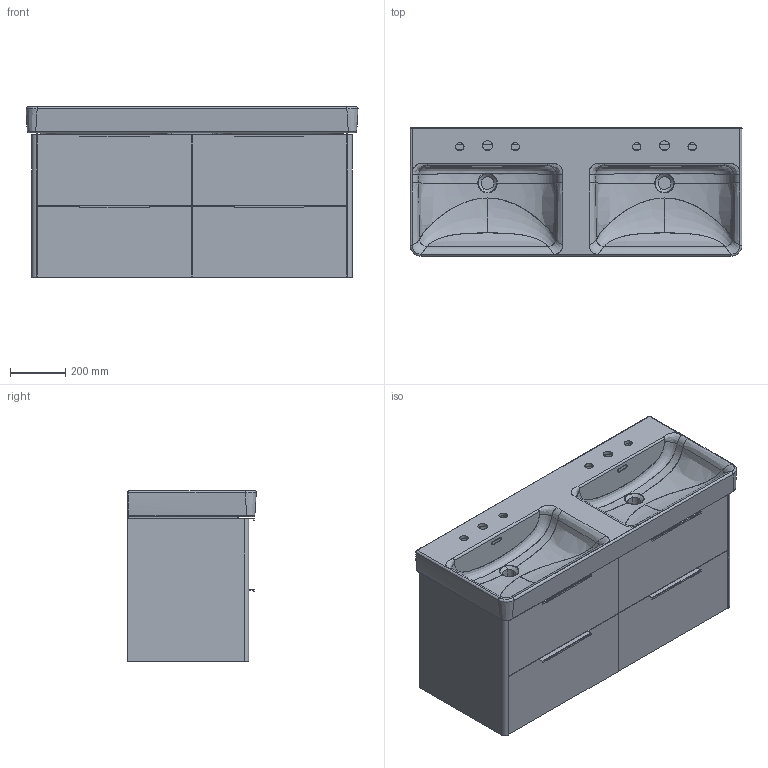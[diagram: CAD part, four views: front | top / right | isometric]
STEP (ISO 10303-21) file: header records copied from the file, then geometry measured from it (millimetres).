
FILE_DESCRIPTION(/* description */ (''),/* implementation_level */ '2;1');
FILE_NAME(/* name */ 'C:\Users\User33\Desktop\Base\3D01_402494.stp',/* time_stamp */ '2018-05-05T14:59:33+02:00',/* author */ ('User33'),/* organization */ (''),/* preprocessor_version */ 'ST-DEVELOPER v16.13',/* originating_system */ 'Autodesk Inventor 2018',/* authorisation */ '');
FILE_SCHEMA (('AUTOMOTIVE_DESIGN { 1 0 10303 214 3 1 1 }'));
Products named in the file (44): Scheletro monoblocco curvo 1159 doppio; Scheletro monoblocco curvo 1159 doppio_1_1; Scheletro monoblocco curvo 1159 doppio_6; Scheletro monoblocco curvo 1159 doppio_7; Scheletro monoblocco curvo 1159 doppio_8; Scheletro monoblocco curvo 1159 doppio_9; Scheletro monoblocco curvo 1159 doppio_11; Scheletro monoblocco curvo 1159 doppio_12; Scheletro monoblocco curvo 1159 doppio_14; Scheletro monoblocco curvo 1159 doppio_15; Scheletro monoblocco curvo 1159 doppio_16; Scheletro monoblocco curvo 1159 doppio_17; Scheletro monoblocco curvo 1159 doppio_20; Scheletro monoblocco curvo 1159 doppio_21; Scheletro monoblocco curvo 1159 doppio_24; Scheletro monoblocco curvo 1159 doppio_25; Scheletro monoblocco curvo 1159 doppio_26; Scheletro monoblocco curvo 1159 doppio_27; Scheletro monoblocco curvo 1159 doppio_29; Scheletro monoblocco curvo 1159 doppio_30; Scheletro monoblocco curvo 1159 doppio_32; Scheletro monoblocco curvo 1159 doppio_33; Scheletro monoblocco curvo 1159 doppio_34; Scheletro monoblocco curvo 1159 doppio_35; Scheletro monoblocco curvo 1159 doppio_36; Scheletro monoblocco curvo 1159 doppio_37; Scheletro monoblocco curvo 1159 doppio_39; Scheletro monoblocco curvo 1159 doppio_40; Scheletro monoblocco curvo 1159 doppio_44; Scheletro monoblocco curvo 1159 doppio_46; Scheletro monoblocco curvo 1159 doppio_47; Scheletro monoblocco curvo 1159 doppio_49; Scheletro monoblocco curvo 1159 doppio_50; Scheletro monoblocco curvo 1159 doppio_54; Scheletro monoblocco curvo 1159 doppio_55; Scheletro monoblocco curvo 1159 doppio_57; Scheletro monoblocco curvo 1159 doppio_58; Scheletro monoblocco curvo 1159 doppio_60; Scheletro monoblocco curvo 1159 doppio_61; Scheletro monoblocco curvo 1159 doppio_62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
Assembly tree (43 placements, depth 2):
  Scheletro monoblocco curvo 1159 doppio
    Scheletro monoblocco curvo 1159 doppio_1_1
    Scheletro monoblocco curvo 1159 doppio_6
    Scheletro monoblocco curvo 1159 doppio_7
    Scheletro monoblocco curvo 1159 doppio_8
    Scheletro monoblocco curvo 1159 doppio_9
    Scheletro monoblocco curvo 1159 doppio_11
    Scheletro monoblocco curvo 1159 doppio_12
    Scheletro monoblocco curvo 1159 doppio_14
    Scheletro monoblocco curvo 1159 doppio_15
    Scheletro monoblocco curvo 1159 doppio_16
    Scheletro monoblocco curvo 1159 doppio_17
    Scheletro monoblocco curvo 1159 doppio_20
    Scheletro monoblocco curvo 1159 doppio_21
    Scheletro monoblocco curvo 1159 doppio_24
    Scheletro monoblocco curvo 1159 doppio_25
    Scheletro monoblocco curvo 1159 doppio_26
    Scheletro monoblocco curvo 1159 doppio_27
    Scheletro monoblocco curvo 1159 doppio_29
    Scheletro monoblocco curvo 1159 doppio_30
    Scheletro monoblocco curvo 1159 doppio_32
    Scheletro monoblocco curvo 1159 doppio_33
    Scheletro monoblocco curvo 1159 doppio_34
    Scheletro monoblocco curvo 1159 doppio_35
    Scheletro monoblocco curvo 1159 doppio_36
    Scheletro monoblocco curvo 1159 doppio_37
    Scheletro monoblocco curvo 1159 doppio_39
    Scheletro monoblocco curvo 1159 doppio_40
    Scheletro monoblocco curvo 1159 doppio_44
    Scheletro monoblocco curvo 1159 doppio_46
    Scheletro monoblocco curvo 1159 doppio_47
    Scheletro monoblocco curvo 1159 doppio_49
    Scheletro monoblocco curvo 1159 doppio_50
    Scheletro monoblocco curvo 1159 doppio_54
    Scheletro monoblocco curvo 1159 doppio_55
    Scheletro monoblocco curvo 1159 doppio_57
    Scheletro monoblocco curvo 1159 doppio_58
    Scheletro monoblocco curvo 1159 doppio_60
    Scheletro monoblocco curvo 1159 doppio_61
    Scheletro monoblocco curvo 1159 doppio_62
    Maniglia
    Maniglia 2
    Maniglia 3
    Maniglia 4
Bounding box: 1200.76 x 465.28 x 617 mm (x, y, z)
Volume: 51922147.5 mm3; surface area: 8848361.2 mm2
Topology: 44 solids, 766 shells, 2144 faces, 7200 edges, 5930 vertices
Faces by surface type: plane 1242, cylinder 441, bspline 375, torus 39, sphere 31, cone 16
Full cylindrical faces by diameter (mm): 4 x36, 4.1 x9, 5 x8, 5.1 x9, 6 x27
Entity records: 260868 total; most frequent: CARTESIAN_POINT 197386, DIRECTION 11396, ORIENTED_EDGE 10804, EDGE_CURVE 7104, VERTEX_POINT 5930, LINE 3970, VECTOR 3970, AXIS2_PLACEMENT_3D 3713
